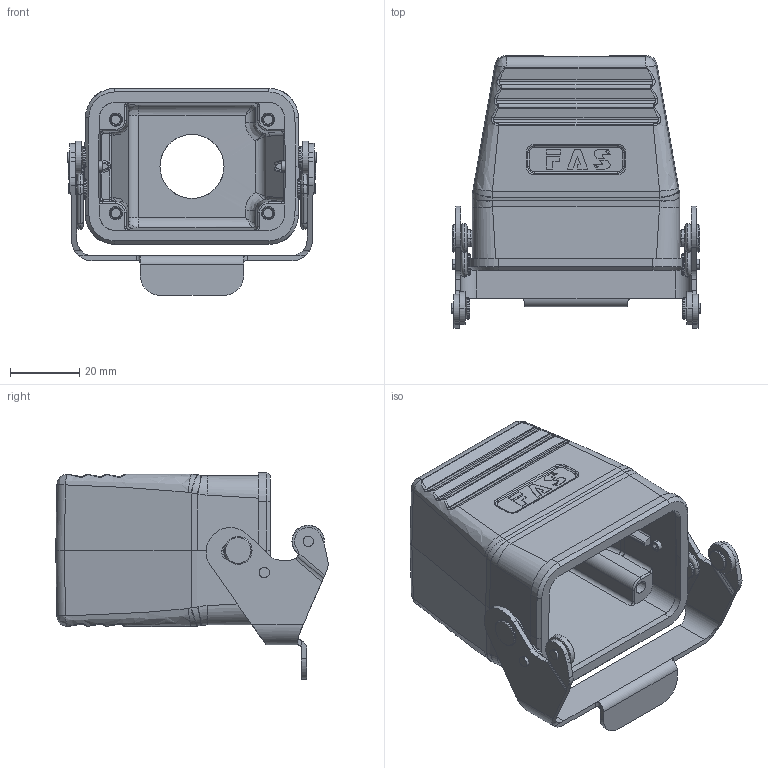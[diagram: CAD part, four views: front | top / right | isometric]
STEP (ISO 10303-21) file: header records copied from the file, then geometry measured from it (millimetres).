
FILE_DESCRIPTION (( 'STEP AP203' ), '1' );
FILE_NAME ('H6B-TBF-M20.STEP', '2020-11-21T02:18:18', ( '' ), ( '' ), 'SwSTEP 2.0', 'SolidWorks 2016', '' );
FILE_SCHEMA (( 'CONFIG_CONTROL_DESIGN' ));
Length unit declared in the file: millimetre
Products named in the file (9): maoding1; H6B-TBF-M20; h6b_low_hoods; kahuan; maoding; tanhuang; 6bdankou; asm0002; h6bduijiemifengquan
Assembly tree (14 placements, depth 3):
  H6B-TBF-M20
    h6bduijiemifengquan
    asm0002
      6bdankou
      kahuan  x2
      maoding1  x4
      tanhuang  x2
      maoding  x2
    h6b_low_hoods
Bounding box: 72.1 x 78.7 x 59.78 mm (x, y, z)
Volume: 58458.6 mm3; surface area: 34371 mm2
Topology: 13 solids, 13 shells, 789 faces, 1851 edges, 1123 vertices
Faces by surface type: plane 255, cylinder 252, bspline 234, cone 48
Entity records: 30489 total; most frequent: CARTESIAN_POINT 15160, ORIENTED_EDGE 3266, DIRECTION 2501, EDGE_CURVE 1633, VERTEX_POINT 1000, AXIS2_PLACEMENT_3D 866, VECTOR 769, LINE 769
